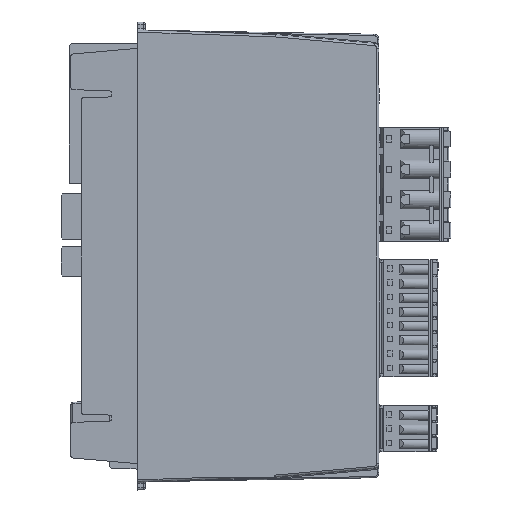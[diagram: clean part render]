
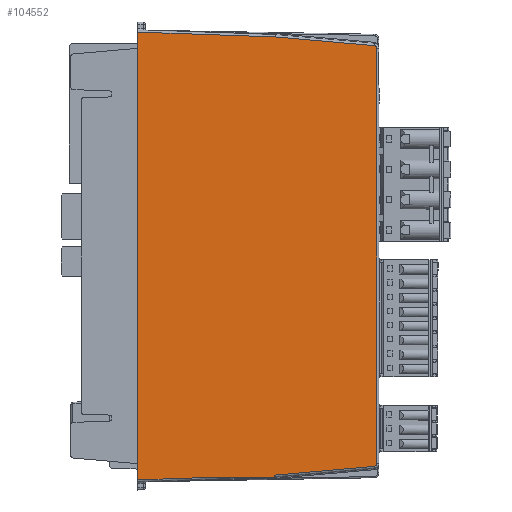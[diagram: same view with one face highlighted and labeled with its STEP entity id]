
A CAD part, left-side view. The second image highlights one B-rep face of the part: STEP entity #104552.
In plain terms, the highlighted planar face has unit normal (-1, -0.018, 0).
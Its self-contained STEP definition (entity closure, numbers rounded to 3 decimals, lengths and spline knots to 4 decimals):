
#784=ELLIPSE('',#111907,0.0315,0.0315);
#785=ELLIPSE('',#111908,0.0315,0.0315);
#5002=PLANE('',#111906);
#10863=FACE_OUTER_BOUND('',#16524,.T.);
#16524=EDGE_LOOP('',(#90387,#90388,#90389,#90390,#90391,#90392,#90393,#90394,
#90395,#90396,#90397,#90398,#90399));
#29617=LINE('',#169430,#40760);
#29630=LINE('',#169502,#40773);
#29713=LINE('',#169841,#40856);
#30025=LINE('',#171635,#41168);
#30026=LINE('',#171637,#41169);
#30027=LINE('',#171641,#41170);
#30028=LINE('',#171645,#41171);
#30029=LINE('',#171647,#41172);
#30030=LINE('',#171649,#41173);
#30031=LINE('',#171651,#41174);
#30032=LINE('',#171652,#41175);
#40760=VECTOR('',#135336,0.3937);
#40773=VECTOR('',#135377,0.3937);
#40856=VECTOR('',#135646,39.3701);
#41168=VECTOR('',#136338,39.3701);
#41169=VECTOR('',#136339,39.3701);
#41170=VECTOR('',#136342,39.3701);
#41171=VECTOR('',#136345,39.3701);
#41172=VECTOR('',#136346,39.3701);
#41173=VECTOR('',#136347,39.3701);
#41174=VECTOR('',#136348,39.3701);
#41175=VECTOR('',#136349,39.3701);
#49900=VERTEX_POINT('',#169426);
#49902=VERTEX_POINT('',#169429);
#49924=VERTEX_POINT('',#169497);
#50031=VERTEX_POINT('',#169840);
#50391=VERTEX_POINT('',#171634);
#50392=VERTEX_POINT('',#171636);
#50393=VERTEX_POINT('',#171638);
#50394=VERTEX_POINT('',#171640);
#50395=VERTEX_POINT('',#171642);
#50396=VERTEX_POINT('',#171644);
#50397=VERTEX_POINT('',#171646);
#50398=VERTEX_POINT('',#171648);
#50399=VERTEX_POINT('',#171650);
#63234=EDGE_CURVE('',#49900,#49902,#29617,.T.);
#63261=EDGE_CURVE('',#49902,#49924,#29630,.T.);
#63405=EDGE_CURVE('',#50031,#49924,#29713,.T.);
#63918=EDGE_CURVE('',#49900,#50391,#30025,.T.);
#63919=EDGE_CURVE('',#50391,#50392,#30026,.T.);
#63920=EDGE_CURVE('',#50392,#50393,#784,.T.);
#63921=EDGE_CURVE('',#50393,#50394,#30027,.T.);
#63922=EDGE_CURVE('',#50394,#50395,#785,.T.);
#63923=EDGE_CURVE('',#50395,#50396,#30028,.T.);
#63924=EDGE_CURVE('',#50396,#50397,#30029,.T.);
#63925=EDGE_CURVE('',#50397,#50398,#30030,.T.);
#63926=EDGE_CURVE('',#50399,#50398,#30031,.T.);
#63927=EDGE_CURVE('',#50399,#50031,#30032,.T.);
#90387=ORIENTED_EDGE('',*,*,#63918,.T.);
#90388=ORIENTED_EDGE('',*,*,#63919,.T.);
#90389=ORIENTED_EDGE('',*,*,#63920,.T.);
#90390=ORIENTED_EDGE('',*,*,#63921,.T.);
#90391=ORIENTED_EDGE('',*,*,#63922,.T.);
#90392=ORIENTED_EDGE('',*,*,#63923,.T.);
#90393=ORIENTED_EDGE('',*,*,#63924,.T.);
#90394=ORIENTED_EDGE('',*,*,#63925,.T.);
#90395=ORIENTED_EDGE('',*,*,#63926,.F.);
#90396=ORIENTED_EDGE('',*,*,#63927,.T.);
#90397=ORIENTED_EDGE('',*,*,#63405,.T.);
#90398=ORIENTED_EDGE('',*,*,#63261,.F.);
#90399=ORIENTED_EDGE('',*,*,#63234,.F.);
#104552=ADVANCED_FACE('',(#10863),#5002,.T.);
#111906=AXIS2_PLACEMENT_3D('',#171633,#136336,#136337);
#111907=AXIS2_PLACEMENT_3D('',#171639,#136340,#136341);
#111908=AXIS2_PLACEMENT_3D('',#171643,#136343,#136344);
#135336=DIRECTION('',(0.,0.,-1.));
#135377=DIRECTION('',(-0.017,1.,0.));
#135646=DIRECTION('',(0.017,-0.999,0.035));
#136336=DIRECTION('center_axis',(-1.,-0.017,
0.));
#136337=DIRECTION('ref_axis',(-0.017,1.,0.));
#136338=DIRECTION('',(0.017,-0.999,0.035));
#136339=DIRECTION('',(0.017,-0.996,0.087));
#136340=DIRECTION('center_axis',(-1.,-0.017,
0.));
#136341=DIRECTION('ref_axis',(0.017,-1.,0.));
#136342=DIRECTION('',(0.,0.,1.));
#136343=DIRECTION('center_axis',(-1.,-0.017,
0.));
#136344=DIRECTION('ref_axis',(0.017,-1.,0.));
#136345=DIRECTION('',(-0.017,0.996,0.087));
#136346=DIRECTION('',(-0.017,0.999,0.035));
#136347=DIRECTION('',(0.,0.,-1.));
#136348=DIRECTION('',(0.,0.,1.));
#136349=DIRECTION('',(0.,0.,-1.));
#169426=CARTESIAN_POINT('',(0.0005,-2.2096,-4.1958));
#169429=CARTESIAN_POINT('',(0.0005,-2.2096,-4.2206));
#169430=CARTESIAN_POINT('',(0.0005,-2.2096,-3.155));
#169497=CARTESIAN_POINT('',(-0.0119,-1.4997,-4.2206));
#169502=CARTESIAN_POINT('',(-0.0131,-1.4351,-4.2206));
#169840=CARTESIAN_POINT('',(-0.0227,-0.8827,-4.2421));
#169841=CARTESIAN_POINT('',(-0.0282,-0.5654,-4.2532));
#171633=CARTESIAN_POINT('Origin',(-0.0296,-0.489,
-2.0669));
#171634=CARTESIAN_POINT('',(0.0007,-2.2205,-4.1954));
#171635=CARTESIAN_POINT('',(-0.0282,-0.5654,-4.2532));
#171636=CARTESIAN_POINT('',(0.0174,-3.1772,-4.1117));
#171637=CARTESIAN_POINT('',(-0.0261,-0.6869,-4.3296));
#171638=CARTESIAN_POINT('',(0.0179,-3.2059,-4.0803));
#171639=CARTESIAN_POINT('Origin',(0.0173,-3.1744,
-4.0803));
#171640=CARTESIAN_POINT('',(0.0179,-3.2059,-0.0535));
#171641=CARTESIAN_POINT('',(0.0179,-3.2059,-0.0535));
#171642=CARTESIAN_POINT('',(0.0174,-3.1772,-0.0221));
#171643=CARTESIAN_POINT('Origin',(0.0173,-3.1744,
-0.0535));
#171644=CARTESIAN_POINT('',(0.0007,-2.2205,0.0616));
#171645=CARTESIAN_POINT('',(-0.0261,-0.6869,0.1957));
#171646=CARTESIAN_POINT('',(-0.0227,-0.8827,0.1083));
#171647=CARTESIAN_POINT('',(-0.0282,-0.5654,0.1194));
#171648=CARTESIAN_POINT('',(-0.0227,-0.8827,-0.0312));
#171649=CARTESIAN_POINT('',(-0.0227,-0.8827,0.128));
#171650=CARTESIAN_POINT('',(-0.0227,-0.8827,-4.1027));
#171651=CARTESIAN_POINT('',(-0.0227,-0.8827,-7.5932));
#171652=CARTESIAN_POINT('',(-0.0227,-0.8827,0.128));
